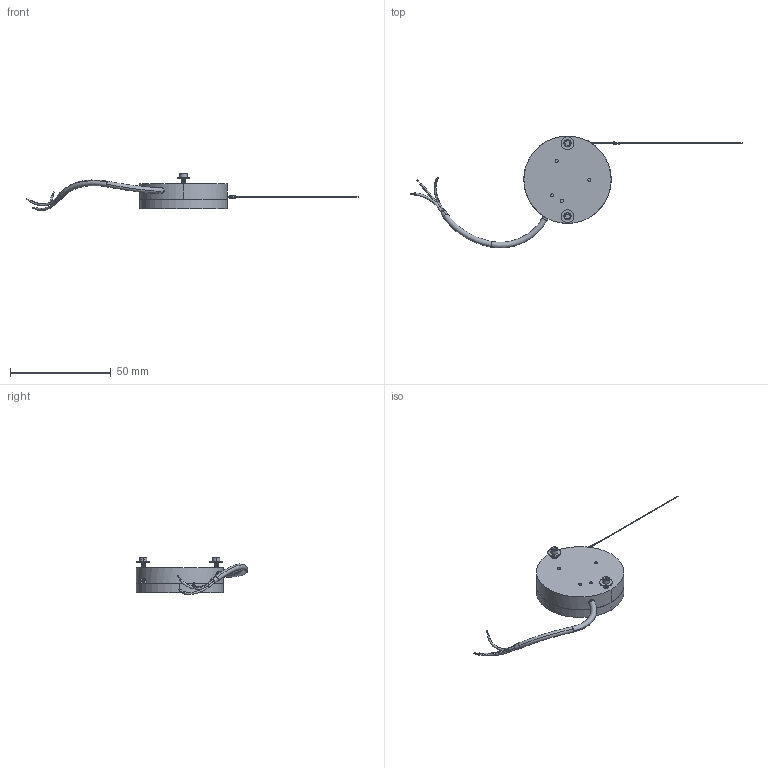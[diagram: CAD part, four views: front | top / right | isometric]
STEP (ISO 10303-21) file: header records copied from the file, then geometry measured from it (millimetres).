
FILE_DESCRIPTION (( 'STEP AP214' ), '1' );
FILE_NAME ('173 SERIES.STEP', '2016-12-12T20:10:43', ( 'setup' ), ( '' ), 'SwSTEP 2.0', 'SolidWorks 2015', '' );
FILE_SCHEMA (( 'AUTOMOTIVE_DESIGN' ));
Length unit declared in the file: inch
Products named in the file (2): 173 SERIES
Bounding box: 164.64 x 55.46 x 18.35 mm (x, y, z)
Surface area: 6763.2 mm2 (no closed solid volume)
Topology: 0 solids, 18 shells, 212 faces, 633 edges, 451 vertices
Faces by surface type: cylinder 131, plane 51, bspline 14, torus 12, cone 4
Entity records: 15199 total; most frequent: CARTESIAN_POINT 7254, ORIENTED_EDGE 1092, DIRECTION 1063, EDGE_CURVE 633, VERTEX_POINT 451, AXIS2_PLACEMENT_3D 414, EDGE_LOOP 253, VECTOR 235
